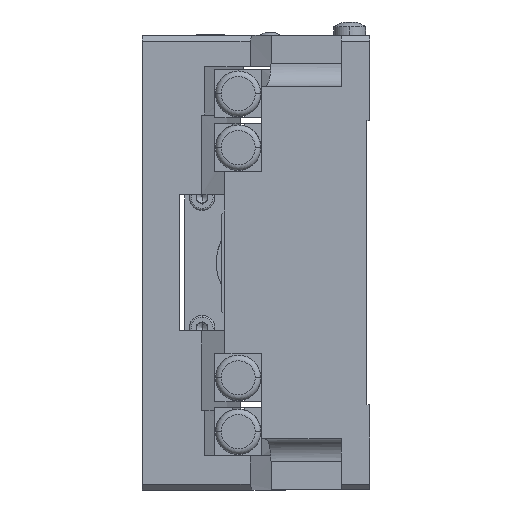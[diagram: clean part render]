
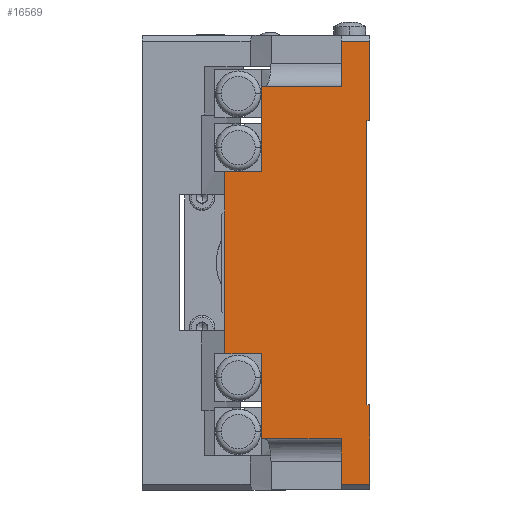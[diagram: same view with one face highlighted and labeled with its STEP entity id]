
A CAD part, left-side view. The second image highlights one B-rep face of the part: STEP entity #16569.
In plain terms, the highlighted planar face has unit normal (-1, 0, 0).
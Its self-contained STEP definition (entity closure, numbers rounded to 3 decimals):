
#48 = LINE ( 'NONE', #36123, #17644 ) ;
#211 = VECTOR ( 'NONE', #5240, 1000. ) ;
#267 = VECTOR ( 'NONE', #19856, 1000. ) ;
#287 = EDGE_CURVE ( 'NONE', #32383, #24293, #6554, .T. ) ;
#974 = EDGE_CURVE ( 'NONE', #31989, #29320, #11005, .T. ) ;
#997 = ORIENTED_EDGE ( 'NONE', *, *, #4125, .F. ) ;
#1036 = ORIENTED_EDGE ( 'NONE', *, *, #25243, .T. ) ;
#1664 = VECTOR ( 'NONE', #23061, 1000. ) ;
#1712 = DIRECTION ( 'NONE',  ( 0., -1., 0. ) ) ;
#2181 = ORIENTED_EDGE ( 'NONE', *, *, #36864, .T. ) ;
#2184 = ORIENTED_EDGE ( 'NONE', *, *, #4994, .F. ) ;
#2295 = EDGE_CURVE ( 'NONE', #4719, #12343, #15885, .T. ) ;
#2352 = VECTOR ( 'NONE', #30876, 1000. ) ;
#2527 = CARTESIAN_POINT ( 'NONE',  ( -40., 25.485, -16. ) ) ;
#2799 = CARTESIAN_POINT ( 'NONE',  ( -40., 19., -31. ) ) ;
#3860 = LINE ( 'NONE', #20916, #17418 ) ;
#4125 = EDGE_CURVE ( 'NONE', #24293, #27888, #15011, .T. ) ;
#4719 = VERTEX_POINT ( 'NONE', #32545 ) ;
#4994 = EDGE_CURVE ( 'NONE', #36126, #13289, #9491, .T. ) ;
#5175 = EDGE_CURVE ( 'NONE', #4719, #27398, #21263, .T. ) ;
#5240 = DIRECTION ( 'NONE',  ( 0., 0., -1. ) ) ;
#6216 = ORIENTED_EDGE ( 'NONE', *, *, #7875, .T. ) ;
#6554 = LINE ( 'NONE', #17099, #211 ) ;
#6926 = EDGE_CURVE ( 'NONE', #8105, #26012, #9341, .T. ) ;
#6956 = VECTOR ( 'NONE', #12983, 1000. ) ;
#7130 = VERTEX_POINT ( 'NONE', #35233 ) ;
#7134 = CARTESIAN_POINT ( 'NONE',  ( -40., 19.991, 39. ) ) ;
#7368 = DIRECTION ( 'NONE',  ( 0., -1., 0. ) ) ;
#7473 = EDGE_CURVE ( 'NONE', #20871, #8105, #29652, .T. ) ;
#7774 = VERTEX_POINT ( 'NONE', #9823 ) ;
#7831 = EDGE_LOOP ( 'NONE', ( #8606, #17172, #18232, #2184, #17629, #26299, #997, #17337, #33483, #31908, #1036, #2181, #30423, #36474, #6216, #16488 ) ) ;
#7875 = EDGE_CURVE ( 'NONE', #27398, #7130, #10710, .T. ) ;
#8105 = VERTEX_POINT ( 'NONE', #33985 ) ;
#8292 = CARTESIAN_POINT ( 'NONE',  ( -40., 0., 25. ) ) ;
#8578 = CARTESIAN_POINT ( 'NONE',  ( -40., 25.485, -16. ) ) ;
#8606 = ORIENTED_EDGE ( 'NONE', *, *, #7473, .T. ) ;
#8686 = DIRECTION ( 'NONE',  ( 0., 0., 1. ) ) ;
#8822 = VECTOR ( 'NONE', #15209, 1000. ) ;
#9283 = VERTEX_POINT ( 'NONE', #9766 ) ;
#9341 = LINE ( 'NONE', #31723, #1664 ) ;
#9491 = LINE ( 'NONE', #33673, #18087 ) ;
#9766 = CARTESIAN_POINT ( 'NONE',  ( -40., 0., -39. ) ) ;
#9823 = CARTESIAN_POINT ( 'NONE',  ( -40., 5., 39. ) ) ;
#10420 = LINE ( 'NONE', #13022, #18535 ) ;
#10710 = LINE ( 'NONE', #16297, #21573 ) ;
#11005 = LINE ( 'NONE', #30275, #6956 ) ;
#11137 = AXIS2_PLACEMENT_3D ( 'NONE', #29118, #29001, #23457 ) ;
#11565 = PLANE ( 'NONE',  #11137 ) ;
#11955 = DIRECTION ( 'NONE',  ( 0., 0., -1. ) ) ;
#12204 = DIRECTION ( 'NONE',  ( 0., 1., 0. ) ) ;
#12343 = VERTEX_POINT ( 'NONE', #24288 ) ;
#12427 = CARTESIAN_POINT ( 'NONE',  ( -40., 0., 40. ) ) ;
#12525 = VECTOR ( 'NONE', #19707, 1000. ) ;
#12949 = DIRECTION ( 'NONE',  ( 0., 1., 0. ) ) ;
#12983 = DIRECTION ( 'NONE',  ( 0., 0., -1. ) ) ;
#13022 = CARTESIAN_POINT ( 'NONE',  ( -40., 5., 40. ) ) ;
#13289 = VERTEX_POINT ( 'NONE', #26600 ) ;
#13827 = FACE_OUTER_BOUND ( 'NONE', #7831, .T. ) ;
#14004 = VECTOR ( 'NONE', #12949, 1000. ) ;
#15011 = LINE ( 'NONE', #22426, #2352 ) ;
#15209 = DIRECTION ( 'NONE',  ( 0., 0., -1. ) ) ;
#15769 = CARTESIAN_POINT ( 'NONE',  ( -40., 25.485, 31. ) ) ;
#15885 = LINE ( 'NONE', #15769, #25370 ) ;
#16297 = CARTESIAN_POINT ( 'NONE',  ( -40., 25.485, 16. ) ) ;
#16488 = ORIENTED_EDGE ( 'NONE', *, *, #34834, .T. ) ;
#16569 = ADVANCED_FACE ( 'NONE', ( #13827 ), #11565, .F. ) ;
#16650 = EDGE_CURVE ( 'NONE', #13289, #26012, #3860, .T. ) ;
#17055 = LINE ( 'NONE', #19588, #12525 ) ;
#17099 = CARTESIAN_POINT ( 'NONE',  ( -40., 0.5, 25. ) ) ;
#17172 = ORIENTED_EDGE ( 'NONE', *, *, #6926, .T. ) ;
#17337 = ORIENTED_EDGE ( 'NONE', *, *, #287, .F. ) ;
#17418 = VECTOR ( 'NONE', #12204, 1000. ) ;
#17629 = ORIENTED_EDGE ( 'NONE', *, *, #26835, .T. ) ;
#17644 = VECTOR ( 'NONE', #7368, 1000. ) ;
#18087 = VECTOR ( 'NONE', #8686, 1000. ) ;
#18232 = ORIENTED_EDGE ( 'NONE', *, *, #16650, .F. ) ;
#18535 = VECTOR ( 'NONE', #18562, 1000. ) ;
#18562 = DIRECTION ( 'NONE',  ( 0., 0., -1. ) ) ;
#19246 = CARTESIAN_POINT ( 'NONE',  ( -40., 19., 16. ) ) ;
#19588 = CARTESIAN_POINT ( 'NONE',  ( -40., 25.485, 40. ) ) ;
#19707 = DIRECTION ( 'NONE',  ( 0., 0., -1. ) ) ;
#19856 = DIRECTION ( 'NONE',  ( 0., -1., 0. ) ) ;
#20871 = VERTEX_POINT ( 'NONE', #8578 ) ;
#20916 = CARTESIAN_POINT ( 'NONE',  ( -40., 25.485, -31. ) ) ;
#21263 = LINE ( 'NONE', #29272, #27617 ) ;
#21573 = VECTOR ( 'NONE', #33008, 1000. ) ;
#22215 = CARTESIAN_POINT ( 'NONE',  ( -40., 0.5, 25. ) ) ;
#22426 = CARTESIAN_POINT ( 'NONE',  ( -40., 0.5, -25. ) ) ;
#22718 = CARTESIAN_POINT ( 'NONE',  ( -40., 25.485, -39. ) ) ;
#23061 = DIRECTION ( 'NONE',  ( 0., 0., -1. ) ) ;
#23071 = CARTESIAN_POINT ( 'NONE',  ( -40., 5., -39. ) ) ;
#23457 = DIRECTION ( 'NONE',  ( 0., 1., 0. ) ) ;
#24288 = CARTESIAN_POINT ( 'NONE',  ( -40., 5., 31. ) ) ;
#24293 = VERTEX_POINT ( 'NONE', #26909 ) ;
#24765 = VECTOR ( 'NONE', #28517, 1000. ) ;
#25243 = EDGE_CURVE ( 'NONE', #31989, #7774, #37001, .T. ) ;
#25370 = VECTOR ( 'NONE', #1712, 1000. ) ;
#26012 = VERTEX_POINT ( 'NONE', #2799 ) ;
#26299 = ORIENTED_EDGE ( 'NONE', *, *, #29521, .F. ) ;
#26600 = CARTESIAN_POINT ( 'NONE',  ( -40., 5., -31. ) ) ;
#26835 = EDGE_CURVE ( 'NONE', #36126, #9283, #36451, .T. ) ;
#26909 = CARTESIAN_POINT ( 'NONE',  ( -40., 0.5, -25. ) ) ;
#27398 = VERTEX_POINT ( 'NONE', #19246 ) ;
#27617 = VECTOR ( 'NONE', #11955, 1000. ) ;
#27888 = VERTEX_POINT ( 'NONE', #28301 ) ;
#28041 = CARTESIAN_POINT ( 'NONE',  ( -40., 0., 39. ) ) ;
#28301 = CARTESIAN_POINT ( 'NONE',  ( -40., 0., -25. ) ) ;
#28517 = DIRECTION ( 'NONE',  ( 0., -1., 0. ) ) ;
#29001 = DIRECTION ( 'NONE',  ( 1., 0., 0. ) ) ;
#29118 = CARTESIAN_POINT ( 'NONE',  ( -40., 25.485, 40. ) ) ;
#29272 = CARTESIAN_POINT ( 'NONE',  ( -40., 19., 16. ) ) ;
#29320 = VERTEX_POINT ( 'NONE', #8292 ) ;
#29521 = EDGE_CURVE ( 'NONE', #27888, #9283, #36799, .T. ) ;
#29652 = LINE ( 'NONE', #2527, #267 ) ;
#30275 = CARTESIAN_POINT ( 'NONE',  ( -40., 0., 40. ) ) ;
#30423 = ORIENTED_EDGE ( 'NONE', *, *, #2295, .F. ) ;
#30876 = DIRECTION ( 'NONE',  ( 0., -1., 0. ) ) ;
#31723 = CARTESIAN_POINT ( 'NONE',  ( -40., 19., -16. ) ) ;
#31908 = ORIENTED_EDGE ( 'NONE', *, *, #974, .F. ) ;
#31989 = VERTEX_POINT ( 'NONE', #28041 ) ;
#32383 = VERTEX_POINT ( 'NONE', #22215 ) ;
#32545 = CARTESIAN_POINT ( 'NONE',  ( -40., 19., 31. ) ) ;
#33008 = DIRECTION ( 'NONE',  ( 0., 1., 0. ) ) ;
#33483 = ORIENTED_EDGE ( 'NONE', *, *, #36510, .T. ) ;
#33673 = CARTESIAN_POINT ( 'NONE',  ( -40., 5., 40. ) ) ;
#33985 = CARTESIAN_POINT ( 'NONE',  ( -40., 19., -16. ) ) ;
#34834 = EDGE_CURVE ( 'NONE', #7130, #20871, #17055, .T. ) ;
#35233 = CARTESIAN_POINT ( 'NONE',  ( -40., 25.485, 16. ) ) ;
#36123 = CARTESIAN_POINT ( 'NONE',  ( -40., 0.5, 25. ) ) ;
#36126 = VERTEX_POINT ( 'NONE', #23071 ) ;
#36451 = LINE ( 'NONE', #22718, #24765 ) ;
#36474 = ORIENTED_EDGE ( 'NONE', *, *, #5175, .T. ) ;
#36510 = EDGE_CURVE ( 'NONE', #32383, #29320, #48, .T. ) ;
#36799 = LINE ( 'NONE', #12427, #8822 ) ;
#36864 = EDGE_CURVE ( 'NONE', #7774, #12343, #10420, .T. ) ;
#37001 = LINE ( 'NONE', #7134, #14004 ) ;
